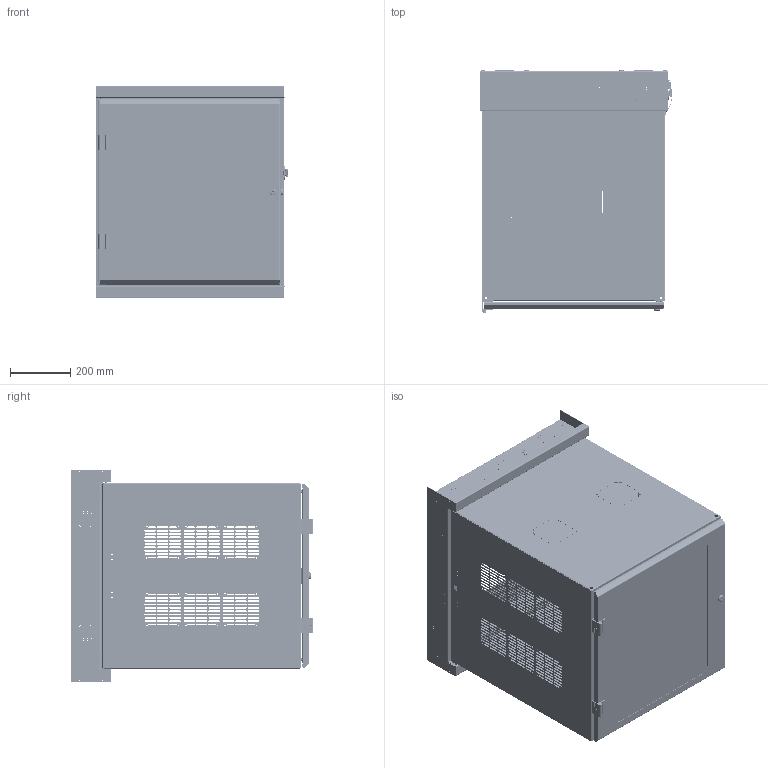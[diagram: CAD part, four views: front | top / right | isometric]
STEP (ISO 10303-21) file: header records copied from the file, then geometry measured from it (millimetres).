
FILE_DESCRIPTION(/* description */ ('Unknown'),/* implementation_level */ '2;1');
FILE_NAME(/* name */ 'HWM2412U26BK',/* time_stamp */ '2025-02-12T13:03:13-05:00',/* author */ ('Unknown'),/* organization */ ('Unknown'),/* preprocessor_version */ 'ST-DEVELOPER v18.104',/* originating_system */ 'Solid Edge',/* authorisation */ 'Unknown');
FILE_SCHEMA (('AUTOMOTIVE_DESIGN {1 0 10303 214 3 1 1}'));
Products named in the file (48): HWM2412U26; COM57687-3; COM56894-3T; STD21878; COM57684-3; HNG14583; COM54375; COM57382-21; COM57384-1; COM57383-1; BSH87667; COM56897-1; FET07734; STR22105; CCH03747; CCH03748-10deg; CCH03748D; CCH03748B; CCH03748E; CCH03748A; CCH03748C; COM56905; LOC13349; LOC13349B; LOC13349A; LAB20204; COM57689-12U; FET07750; COM57689-1; COM57778-19; std26020; COM57691-1; LOC13410; LOC13410B; HNG14605; HNG14605-1; HNG14604-1A; HNG14604-1B; HNG14605-1C; HNG14604-2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
Assembly tree (72 placements, depth 5):
  HWM2412U26
    COM57687-3
      COM56894-3T  x2
        STD21878
        COM56894-3T
      COM57684-3  x2
      HNG14583
      COM54375
    COM57382-21
      COM57384-1  x2
      COM57383-1  x2
        STD21878
        COM57383-1
      BSH87667  x4
    COM56897-1  x2
    FET07734  x4
    STR22105
    CCH03747
    CCH03748-10deg
      CCH03748D
      CCH03748B
      CCH03748E
      CCH03748A
      CCH03748C
    COM56905
    LOC13349
      LOC13349B
      LOC13349A
    LAB20204
    COM57689-12U
      FET07750  x2
      COM57689-1
        COM57689-1
        COM57778-19  x2
        std26020  x2
        COM57691-1
      LOC13410
        LOC13410B
        LOC13349A
      HNG14605
        HNG14605-1
          HNG14604-1A
          HNG14604-1B
          HNG14605-1C
        HNG14604-2  x2
        HNG14605-3
      HNG14604
        HNG14604-3
        HNG14604-2  x2
        HNG14604-1
          HNG14604-1A
          HNG14604-1B
          HNG14604-1C
Bounding box: 641.2 x 807.27 x 706.42 mm (x, y, z)
Volume: 5604479.1 mm3; surface area: 7164914.2 mm2
Topology: 65 solids, 65 shells, 4960 faces, 13735 edges, 9148 vertices
Faces by surface type: plane 3008, cylinder 1838, bspline 53, cone 40, torus 17, sphere 4
Full cylindrical faces by diameter (mm): 2.54 x2, 3.048 x2, 3.175 x30, 3.454 x4, 3.962 x8, 4.039 x8, 4.297 x2, 4.496 x72, 4.775 x52, 4.978 x1, 5.334 x6, 5.461 x2, 5.537 x8, 6 x4, 6.02 x2, 6.1 x2, 6.2 x8, 6.35 x16, 7.137 x8, 7.938 x12, 8.992 x2, 9.246 x4, 9.95 x8, 10 x2, 10.312 x12, 11.125 x2, 11.684 x2, 12.7 x12, 13.005 x1, 15.011 x1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
Entity records: 90530 total; most frequent: CARTESIAN_POINT 18255, DIRECTION 14586, ORIENTED_EDGE 14430, EDGE_CURVE 7215, AXIS2_PLACEMENT_3D 4932, VERTEX_POINT 4894, LINE 4722, VECTOR 4722
